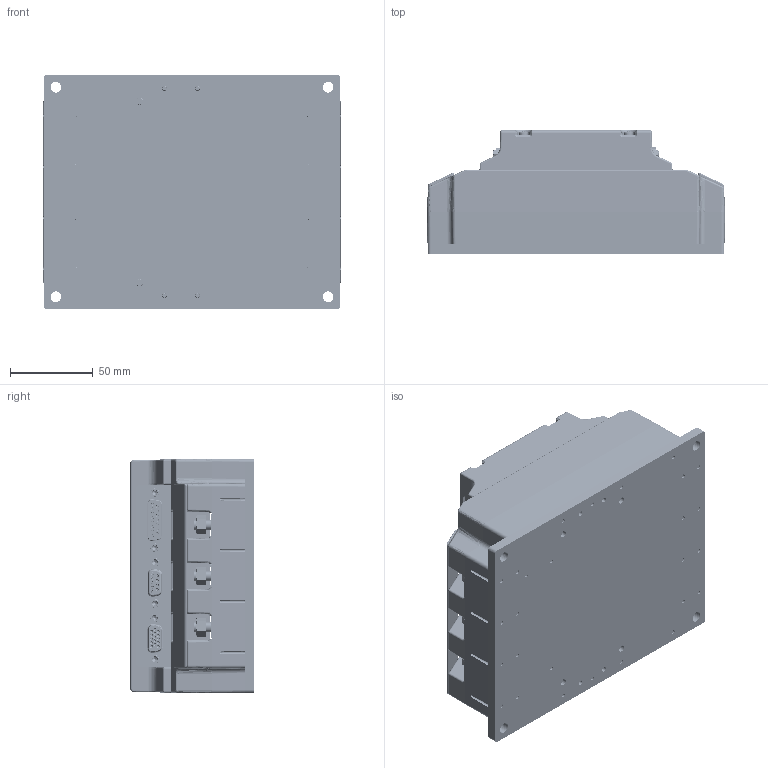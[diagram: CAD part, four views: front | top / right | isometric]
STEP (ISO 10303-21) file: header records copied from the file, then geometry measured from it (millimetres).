
FILE_DESCRIPTION (( 'STEP AP203' ), '1' );
FILE_NAME ('Eagle NG part.STEP', '2015-04-02T08:57:33', ( '' ), ( '' ), 'SwSTEP 2.0', 'SolidWorks 2013', '' );
FILE_SCHEMA (( 'CONFIG_CONTROL_DESIGN' ));
Products named in the file (1): Eagle NG part
Bounding box: 180.34 x 75.66 x 142.34 mm (x, y, z)
Volume: 395495.4 mm3; surface area: 298368.6 mm2
Topology: 106 solids, 106 shells, 9304 faces, 23961 edges, 15292 vertices
Faces by surface type: plane 5192, cylinder 1817, bspline 1634, cone 421, torus 153, sphere 87
Full cylindrical faces by diameter (mm): 0.216 x1, 0.3 x12, 0.382 x6, 0.4 x4, 0.86 x30, 1 x30, 1.05 x9, 1.143 x4, 1.4 x16, 1.778 x9, 1.78 x15, 1.9 x1, 2.05 x3, 2.35 x2, 2.36 x4, 2.4 x8, 2.454 x8, 2.5 x34, 2.6 x8, 2.68 x4, 2.713 x8, 2.75 x4, 2.84 x4, 2.946 x2, 2.95 x2, 2.997 x2, 3 x44, 3.1 x4, 3.175 x4, 3.2 x4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
Entity records: 339967 total; most frequent: CARTESIAN_POINT 131203, ORIENTED_EDGE 45750, DIRECTION 37430, EDGE_CURVE 22875, VERTEX_POINT 14956, LINE 14750, VECTOR 14750, AXIS2_PLACEMENT_3D 11340
